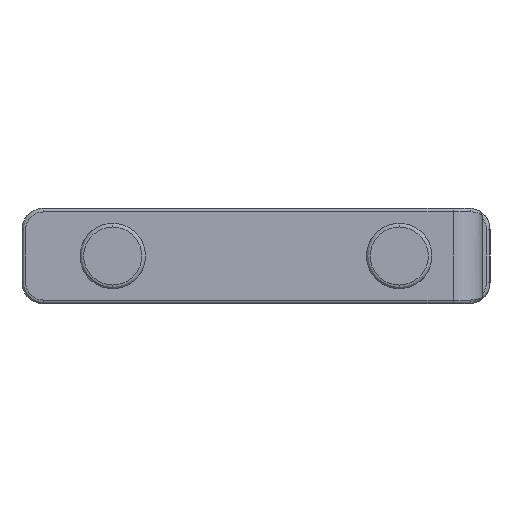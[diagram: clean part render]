
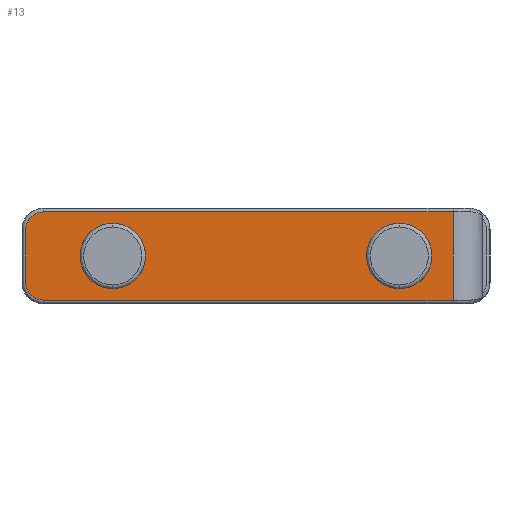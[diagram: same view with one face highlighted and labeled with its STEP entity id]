
A CAD part, left-side view. The second image highlights one B-rep face of the part: STEP entity #13.
In plain terms, the highlighted planar face has unit normal (-1, 0, 0).
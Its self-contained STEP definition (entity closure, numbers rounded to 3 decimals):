
#13 = ADVANCED_FACE ( 'NONE', ( #1130, #1129, #1128 ), #1127, .F. ) ;
#16 = ORIENTED_EDGE ( 'NONE', *, *, #27, .T. ) ;
#21 = ORIENTED_EDGE ( 'NONE', *, *, #42, .T. ) ;
#22 = VERTEX_POINT ( 'NONE', #1118 ) ;
#23 = EDGE_LOOP ( 'NONE', ( #32, #2799 ) ) ;
#27 = EDGE_CURVE ( 'NONE', #35, #30, #1116, .T. ) ;
#28 = ORIENTED_EDGE ( 'NONE', *, *, #38, .F. ) ;
#29 = EDGE_CURVE ( 'NONE', #33, #50, #1174, .T. ) ;
#30 = VERTEX_POINT ( 'NONE', #1170 ) ;
#31 = VERTEX_POINT ( 'NONE', #1169 ) ;
#32 = ORIENTED_EDGE ( 'NONE', *, *, #34, .F. ) ;
#33 = VERTEX_POINT ( 'NONE', #1168 ) ;
#34 = EDGE_CURVE ( 'NONE', #688, #93, #1167, .T. ) ;
#35 = VERTEX_POINT ( 'NONE', #1162 ) ;
#38 = EDGE_CURVE ( 'NONE', #35, #50, #1160, .T. ) ;
#40 = EDGE_CURVE ( 'NONE', #22, #33, #1156, .T. ) ;
#41 = ORIENTED_EDGE ( 'NONE', *, *, #29, .T. ) ;
#42 = EDGE_CURVE ( 'NONE', #31, #22, #1151, .T. ) ;
#50 = VERTEX_POINT ( 'NONE', #1202 ) ;
#54 = ORIENTED_EDGE ( 'NONE', *, *, #40, .T. ) ;
#69 = VERTEX_POINT ( 'NONE', #1240 ) ;
#85 = EDGE_CURVE ( 'NONE', #92, #69, #1212, .T. ) ;
#92 = VERTEX_POINT ( 'NONE', #1257 ) ;
#93 = VERTEX_POINT ( 'NONE', #1256 ) ;
#98 = EDGE_CURVE ( 'NONE', #93, #688, #1246, .T. ) ;
#524 = DIRECTION ( 'NONE',  ( 0., 0., -1. ) ) ;
#525 = DIRECTION ( 'NONE',  ( -1., 0., 0. ) ) ;
#526 = CARTESIAN_POINT ( 'NONE',  ( -533.2, 28.95, 3.6 ) ) ;
#527 = AXIS2_PLACEMENT_3D ( 'NONE', #526, #525, #524 ) ;
#528 = CIRCLE ( 'NONE', #527, 2.4 ) ;
#613 = DIRECTION ( 'NONE',  ( 0., 0., -1. ) ) ;
#614 = DIRECTION ( 'NONE',  ( -1., 0., 0. ) ) ;
#615 = CARTESIAN_POINT ( 'NONE',  ( -533.2, 19.5, 0. ) ) ;
#616 = AXIS2_PLACEMENT_3D ( 'NONE', #615, #614, #613 ) ;
#617 = CIRCLE ( 'NONE', #616, 4.45 ) ;
#688 = VERTEX_POINT ( 'NONE', #1278 ) ;
#725 = ORIENTED_EDGE ( 'NONE', *, *, #85, .F. ) ;
#726 = EDGE_LOOP ( 'NONE', ( #28, #16, #3160, #21, #54, #41 ) ) ;
#1114 = VECTOR ( 'NONE', #1175, 1000. ) ;
#1115 = CARTESIAN_POINT ( 'NONE',  ( -533.2, 28.95, 6. ) ) ;
#1116 = LINE ( 'NONE', #1115, #1114 ) ;
#1118 = CARTESIAN_POINT ( 'NONE',  ( -533.2, 31.35, -3.6 ) ) ;
#1123 = DIRECTION ( 'NONE',  ( 0., 0., -1. ) ) ;
#1124 = DIRECTION ( 'NONE',  ( 1., 0., 0. ) ) ;
#1125 = CARTESIAN_POINT ( 'NONE',  ( -533.2, -27.9, -2.9 ) ) ;
#1126 = AXIS2_PLACEMENT_3D ( 'NONE', #1125, #1124, #1123 ) ;
#1127 = PLANE ( 'NONE',  #1126 ) ;
#1128 = FACE_BOUND ( 'NONE', #23, .T. ) ;
#1129 = FACE_OUTER_BOUND ( 'NONE', #726, .T. ) ;
#1130 = FACE_BOUND ( 'NONE', #3216, .T. ) ;
#1148 = DIRECTION ( 'NONE',  ( 0., 0., -1. ) ) ;
#1149 = VECTOR ( 'NONE', #1148, 1000. ) ;
#1150 = CARTESIAN_POINT ( 'NONE',  ( -533.2, 31.35, -3.6 ) ) ;
#1151 = LINE ( 'NONE', #1150, #1149 ) ;
#1152 = DIRECTION ( 'NONE',  ( 0., 0., -1. ) ) ;
#1153 = DIRECTION ( 'NONE',  ( -1., 0., 0. ) ) ;
#1154 = CARTESIAN_POINT ( 'NONE',  ( -533.2, 28.95, -3.6 ) ) ;
#1155 = AXIS2_PLACEMENT_3D ( 'NONE', #1154, #1153, #1152 ) ;
#1156 = CIRCLE ( 'NONE', #1155, 2.4 ) ;
#1157 = DIRECTION ( 'NONE',  ( 0., 0., -1. ) ) ;
#1158 = VECTOR ( 'NONE', #1157, 1000. ) ;
#1159 = CARTESIAN_POINT ( 'NONE',  ( -533.2, -26.82, -7.5 ) ) ;
#1160 = LINE ( 'NONE', #1159, #1158 ) ;
#1162 = CARTESIAN_POINT ( 'NONE',  ( -533.2, -26.82, 6. ) ) ;
#1163 = DIRECTION ( 'NONE',  ( 0., 0., -1. ) ) ;
#1164 = DIRECTION ( 'NONE',  ( -1., 0., 0. ) ) ;
#1165 = CARTESIAN_POINT ( 'NONE',  ( -533.2, -19.5, 0. ) ) ;
#1166 = AXIS2_PLACEMENT_3D ( 'NONE', #1165, #1164, #1163 ) ;
#1167 = CIRCLE ( 'NONE', #1166, 4.45 ) ;
#1168 = CARTESIAN_POINT ( 'NONE',  ( -533.2, 28.95, -6. ) ) ;
#1169 = CARTESIAN_POINT ( 'NONE',  ( -533.2, 31.35, 3.6 ) ) ;
#1170 = CARTESIAN_POINT ( 'NONE',  ( -533.2, 28.95, 6. ) ) ;
#1171 = DIRECTION ( 'NONE',  ( 0., -1., 0. ) ) ;
#1172 = VECTOR ( 'NONE', #1171, 1000. ) ;
#1173 = CARTESIAN_POINT ( 'NONE',  ( -533.2, -26.82, -6. ) ) ;
#1174 = LINE ( 'NONE', #1173, #1172 ) ;
#1175 = DIRECTION ( 'NONE',  ( 0., 1., 0. ) ) ;
#1202 = CARTESIAN_POINT ( 'NONE',  ( -533.2, -26.82, -6. ) ) ;
#1210 = CARTESIAN_POINT ( 'NONE',  ( -533.2, 19.5, 0. ) ) ;
#1211 = AXIS2_PLACEMENT_3D ( 'NONE', #1210, #1269, #1268 ) ;
#1212 = CIRCLE ( 'NONE', #1211, 4.45 ) ;
#1240 = CARTESIAN_POINT ( 'NONE',  ( -533.2, 19.5, -4.45 ) ) ;
#1243 = DIRECTION ( 'NONE',  ( 0., 0., -1. ) ) ;
#1244 = DIRECTION ( 'NONE',  ( -1., 0., 0. ) ) ;
#1245 = AXIS2_PLACEMENT_3D ( 'NONE', #1252, #1244, #1243 ) ;
#1246 = CIRCLE ( 'NONE', #1245, 4.45 ) ;
#1252 = CARTESIAN_POINT ( 'NONE',  ( -533.2, -19.5, 0. ) ) ;
#1256 = CARTESIAN_POINT ( 'NONE',  ( -533.2, -19.5, 4.45 ) ) ;
#1257 = CARTESIAN_POINT ( 'NONE',  ( -533.2, 19.5, 4.45 ) ) ;
#1268 = DIRECTION ( 'NONE',  ( 0., 0., -1. ) ) ;
#1269 = DIRECTION ( 'NONE',  ( -1., 0., 0. ) ) ;
#1278 = CARTESIAN_POINT ( 'NONE',  ( -533.2, -19.5, -4.45 ) ) ;
#2799 = ORIENTED_EDGE ( 'NONE', *, *, #98, .F. ) ;
#3160 = ORIENTED_EDGE ( 'NONE', *, *, #3162, .T. ) ;
#3162 = EDGE_CURVE ( 'NONE', #30, #31, #528, .T. ) ;
#3216 = EDGE_LOOP ( 'NONE', ( #3217, #725 ) ) ;
#3217 = ORIENTED_EDGE ( 'NONE', *, *, #3218, .F. ) ;
#3218 = EDGE_CURVE ( 'NONE', #69, #92, #617, .T. ) ;
